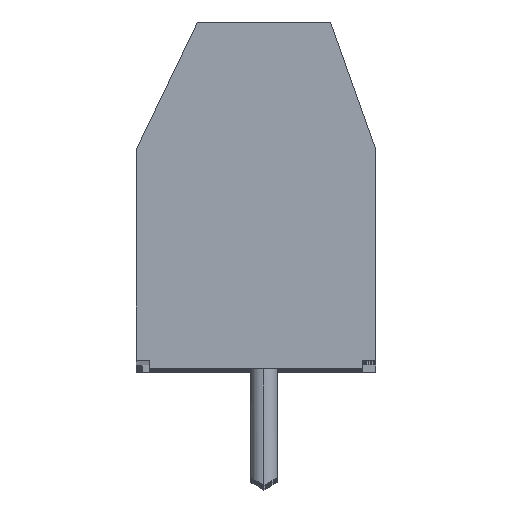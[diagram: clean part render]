
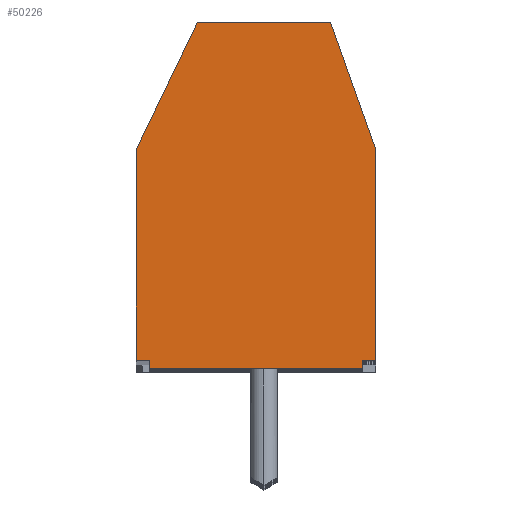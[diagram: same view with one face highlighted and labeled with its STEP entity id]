
A CAD part, top view. The second image highlights one B-rep face of the part: STEP entity #50226.
In plain terms, the highlighted planar face has unit normal (0, 0, 1).
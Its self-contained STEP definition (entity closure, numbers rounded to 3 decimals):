
#794 = EDGE_CURVE ( 'NONE', #795, #796, #5808, .T. ) ;
#795 = VERTEX_POINT ( 'NONE', #5804 ) ;
#796 = VERTEX_POINT ( 'NONE', #5803 ) ;
#817 = EDGE_CURVE ( 'NONE', #818, #52853, #5839, .T. ) ;
#818 = VERTEX_POINT ( 'NONE', #5835 ) ;
#885 = VERTEX_POINT ( 'NONE', #5892 ) ;
#5803 = CARTESIAN_POINT ( 'NONE',  ( -4.3, -0.3, 0. ) ) ;
#5804 = CARTESIAN_POINT ( 'NONE',  ( -4.3, 0., 0. ) ) ;
#5805 = DIRECTION ( 'NONE',  ( 0., -1., 0. ) ) ;
#5806 = VECTOR ( 'NONE', #5805, 1000. ) ;
#5807 = CARTESIAN_POINT ( 'NONE',  ( -4.3, -0.15, 0. ) ) ;
#5808 = LINE ( 'NONE', #5807, #5806 ) ;
#5835 = CARTESIAN_POINT ( 'NONE',  ( 3.7, -0.3, 0. ) ) ;
#5836 = DIRECTION ( 'NONE',  ( 0., 1., 0. ) ) ;
#5837 = VECTOR ( 'NONE', #5836, 1000. ) ;
#5838 = CARTESIAN_POINT ( 'NONE',  ( 3.7, -0.15, 0. ) ) ;
#5839 = LINE ( 'NONE', #5838, #5837 ) ;
#5892 = CARTESIAN_POINT ( 'NONE',  ( -4.8, 0., 0. ) ) ;
#27450 = DIRECTION ( 'NONE',  ( 1., 0., 0. ) ) ;
#27451 = VECTOR ( 'NONE', #27450, 1000. ) ;
#27452 = CARTESIAN_POINT ( 'NONE',  ( 4.2, 0., 0. ) ) ;
#27453 = LINE ( 'NONE', #27452, #27451 ) ;
#32095 = CARTESIAN_POINT ( 'NONE',  ( 4.2, 7.9, 0. ) ) ;
#32096 = DIRECTION ( 'NONE',  ( 0., -1., 0. ) ) ;
#32097 = VECTOR ( 'NONE', #32096, 1000. ) ;
#32098 = CARTESIAN_POINT ( 'NONE',  ( 4.2, 7.9, 0. ) ) ;
#32099 = LINE ( 'NONE', #32098, #32097 ) ;
#32137 = CARTESIAN_POINT ( 'NONE',  ( -4.8, 7.9, 0. ) ) ;
#32138 = DIRECTION ( 'NONE',  ( 0., 1., 0. ) ) ;
#32139 = VECTOR ( 'NONE', #32138, 1000. ) ;
#32140 = CARTESIAN_POINT ( 'NONE',  ( -4.8, 6.2, 0. ) ) ;
#32141 = LINE ( 'NONE', #32140, #32139 ) ;
#32206 = CARTESIAN_POINT ( 'NONE',  ( -0.3, -0.3, 0. ) ) ;
#32207 = LINE ( 'NONE', #32206, #32273 ) ;
#32272 = DIRECTION ( 'NONE',  ( -1., 0., 0. ) ) ;
#32273 = VECTOR ( 'NONE', #32272, 1000. ) ;
#35609 = DIRECTION ( 'NONE',  ( -1., 0., 0. ) ) ;
#35610 = VECTOR ( 'NONE', #35609, 1000. ) ;
#35611 = CARTESIAN_POINT ( 'NONE',  ( 4.2, 12.7, 0. ) ) ;
#35612 = LINE ( 'NONE', #35611, #35610 ) ;
#35640 = CARTESIAN_POINT ( 'NONE',  ( -2.5, 12.7, 0. ) ) ;
#35641 = DIRECTION ( 'NONE',  ( -0.432, -0.902, 0. ) ) ;
#35642 = VECTOR ( 'NONE', #35641, 1000. ) ;
#35643 = CARTESIAN_POINT ( 'NONE',  ( -3.65, 10.3, 0. ) ) ;
#35644 = LINE ( 'NONE', #35643, #35642 ) ;
#35645 = DIRECTION ( 'NONE',  ( -1., 0., 0. ) ) ;
#35646 = DIRECTION ( 'NONE',  ( 0., 0., -1. ) ) ;
#35647 = CARTESIAN_POINT ( 'NONE',  ( 4.2, -0.3, 0. ) ) ;
#35648 = AXIS2_PLACEMENT_3D ( 'NONE', #35647, #35646, #35645 ) ;
#35649 = PLANE ( 'NONE',  #35648 ) ;
#35650 = FACE_OUTER_BOUND ( 'NONE', #50227, .T. ) ;
#35655 = CARTESIAN_POINT ( 'NONE',  ( 2.5, 12.7, 0. ) ) ;
#35657 = DIRECTION ( 'NONE',  ( 0.334, -0.943, 0. ) ) ;
#35658 = VECTOR ( 'NONE', #35657, 1000. ) ;
#35659 = CARTESIAN_POINT ( 'NONE',  ( 2.5, 12.7, 0. ) ) ;
#35660 = LINE ( 'NONE', #35659, #35658 ) ;
#39873 = CARTESIAN_POINT ( 'NONE',  ( 3.7, 0., 0. ) ) ;
#39874 = DIRECTION ( 'NONE',  ( 1., 0., 0. ) ) ;
#39875 = VECTOR ( 'NONE', #39874, 1000. ) ;
#39876 = CARTESIAN_POINT ( 'NONE',  ( 3.952, 0., 0. ) ) ;
#39877 = LINE ( 'NONE', #39876, #39875 ) ;
#39879 = CARTESIAN_POINT ( 'NONE',  ( 4.2, 0., 0. ) ) ;
#45184 = EDGE_CURVE ( 'NONE', #885, #795, #27453, .T. ) ;
#47637 = EDGE_CURVE ( 'NONE', #47638, #52848, #32099, .T. ) ;
#47638 = VERTEX_POINT ( 'NONE', #32095 ) ;
#47827 = EDGE_CURVE ( 'NONE', #885, #47828, #32141, .T. ) ;
#47828 = VERTEX_POINT ( 'NONE', #32137 ) ;
#47909 = EDGE_CURVE ( 'NONE', #818, #796, #32207, .T. ) ;
#50207 = ORIENTED_EDGE ( 'NONE', *, *, #45184, .T. ) ;
#50208 = ORIENTED_EDGE ( 'NONE', *, *, #794, .T. ) ;
#50209 = ORIENTED_EDGE ( 'NONE', *, *, #47909, .F. ) ;
#50210 = ORIENTED_EDGE ( 'NONE', *, *, #817, .T. ) ;
#50211 = ORIENTED_EDGE ( 'NONE', *, *, #52852, .T. ) ;
#50212 = ORIENTED_EDGE ( 'NONE', *, *, #47637, .F. ) ;
#50213 = ORIENTED_EDGE ( 'NONE', *, *, #50220, .F. ) ;
#50214 = ORIENTED_EDGE ( 'NONE', *, *, #50215, .T. ) ;
#50215 = EDGE_CURVE ( 'NONE', #50221, #50230, #35612, .T. ) ;
#50220 = EDGE_CURVE ( 'NONE', #50221, #47638, #35660, .T. ) ;
#50221 = VERTEX_POINT ( 'NONE', #35655 ) ;
#50226 = ADVANCED_FACE ( 'NONE', ( #35650 ), #35649, .F. ) ;
#50227 = EDGE_LOOP ( 'NONE', ( #50228, #50231, #50207, #50208, #50209, #50210, #50211, #50212, #50213, #50214 ) ) ;
#50228 = ORIENTED_EDGE ( 'NONE', *, *, #50229, .T. ) ;
#50229 = EDGE_CURVE ( 'NONE', #50230, #47828, #35644, .T. ) ;
#50230 = VERTEX_POINT ( 'NONE', #35640 ) ;
#50231 = ORIENTED_EDGE ( 'NONE', *, *, #47827, .F. ) ;
#52848 = VERTEX_POINT ( 'NONE', #39879 ) ;
#52852 = EDGE_CURVE ( 'NONE', #52853, #52848, #39877, .T. ) ;
#52853 = VERTEX_POINT ( 'NONE', #39873 ) ;
